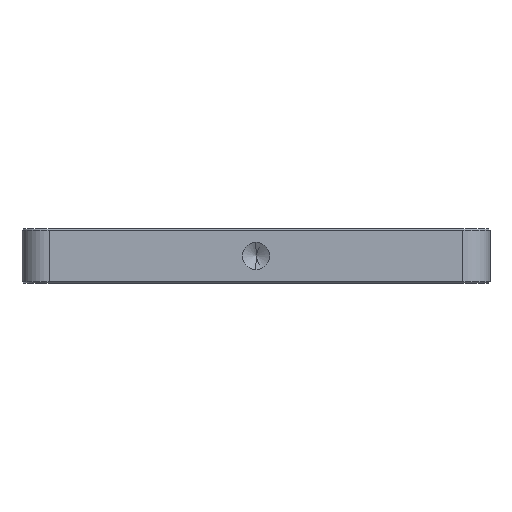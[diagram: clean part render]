
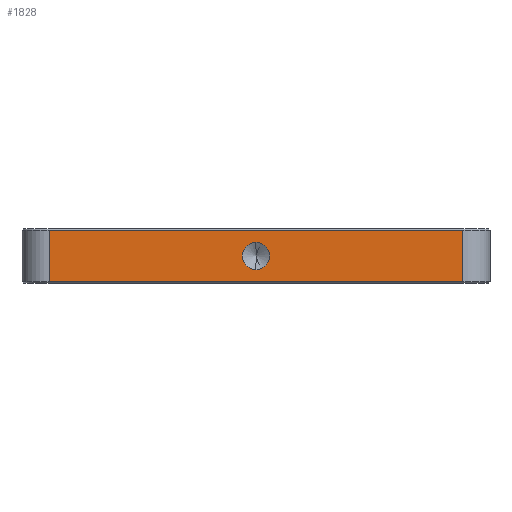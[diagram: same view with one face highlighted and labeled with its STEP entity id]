
A CAD part, left-side view. The second image highlights one B-rep face of the part: STEP entity #1828.
In plain terms, the highlighted planar face has unit normal (-1, 0, 0).
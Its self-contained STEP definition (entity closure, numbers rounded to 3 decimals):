
#3 = EDGE_CURVE ( 'NONE', #1045, #1762, #1506, .T. ) ;
#28 = ORIENTED_EDGE ( 'NONE', *, *, #3, .T. ) ;
#35 = ORIENTED_EDGE ( 'NONE', *, *, #933, .F. ) ;
#49 = AXIS2_PLACEMENT_3D ( 'NONE', #1070, #2497, #1695 ) ;
#227 = FACE_OUTER_BOUND ( 'NONE', #1466, .T. ) ;
#328 = ORIENTED_EDGE ( 'NONE', *, *, #1592, .T. ) ;
#354 = EDGE_LOOP ( 'NONE', ( #35, #1622 ) ) ;
#461 = FACE_BOUND ( 'NONE', #354, .T. ) ;
#506 = CARTESIAN_POINT ( 'NONE',  ( -43., 43., -4.7 ) ) ;
#534 = CARTESIAN_POINT ( 'NONE',  ( -43., 38., 4.7 ) ) ;
#567 = VERTEX_POINT ( 'NONE', #2544 ) ;
#569 = CARTESIAN_POINT ( 'NONE',  ( -43., -38., 5. ) ) ;
#662 = DIRECTION ( 'NONE',  ( 1., 0., 0. ) ) ;
#676 = CARTESIAN_POINT ( 'NONE',  ( -43., 43., 5. ) ) ;
#731 = CARTESIAN_POINT ( 'NONE',  ( -43., 38., 5. ) ) ;
#831 = EDGE_CURVE ( 'NONE', #1119, #567, #2140, .T. ) ;
#865 = VERTEX_POINT ( 'NONE', #1172 ) ;
#890 = DIRECTION ( 'NONE',  ( 0., 1., 0. ) ) ;
#923 = DIRECTION ( 'NONE',  ( -1., 0., 0. ) ) ;
#933 = EDGE_CURVE ( 'NONE', #567, #1119, #1787, .T. ) ;
#936 = CARTESIAN_POINT ( 'NONE',  ( -43., 0., 0. ) ) ;
#981 = DIRECTION ( 'NONE',  ( 0., 0., 1. ) ) ;
#1045 = VERTEX_POINT ( 'NONE', #2020 ) ;
#1049 = CARTESIAN_POINT ( 'NONE',  ( -43., 38., 4.7 ) ) ;
#1070 = CARTESIAN_POINT ( 'NONE',  ( -43., 0., 0. ) ) ;
#1119 = VERTEX_POINT ( 'NONE', #1884 ) ;
#1159 = ORIENTED_EDGE ( 'NONE', *, *, #1311, .T. ) ;
#1172 = CARTESIAN_POINT ( 'NONE',  ( -43., -38., 4.7 ) ) ;
#1200 = AXIS2_PLACEMENT_3D ( 'NONE', #936, #923, #2569 ) ;
#1275 = VECTOR ( 'NONE', #981, 1000. ) ;
#1311 = EDGE_CURVE ( 'NONE', #865, #1896, #1328, .T. ) ;
#1328 = LINE ( 'NONE', #534, #1358 ) ;
#1358 = VECTOR ( 'NONE', #2578, 1000. ) ;
#1466 = EDGE_LOOP ( 'NONE', ( #1614, #1159, #328, #28 ) ) ;
#1506 = LINE ( 'NONE', #506, #2179 ) ;
#1592 = EDGE_CURVE ( 'NONE', #1896, #1045, #2573, .T. ) ;
#1614 = ORIENTED_EDGE ( 'NONE', *, *, #2189, .T. ) ;
#1622 = ORIENTED_EDGE ( 'NONE', *, *, #831, .F. ) ;
#1695 = DIRECTION ( 'NONE',  ( 0., 0., 1. ) ) ;
#1734 = AXIS2_PLACEMENT_3D ( 'NONE', #676, #662, #890 ) ;
#1762 = VERTEX_POINT ( 'NONE', #2619 ) ;
#1787 = CIRCLE ( 'NONE', #1200, 2.5 ) ;
#1828 = ADVANCED_FACE ( 'NONE', ( #461, #227 ), #1892, .F. ) ;
#1884 = CARTESIAN_POINT ( 'NONE',  ( -43., 0., -2.5 ) ) ;
#1892 = PLANE ( 'NONE',  #1734 ) ;
#1896 = VERTEX_POINT ( 'NONE', #1049 ) ;
#2020 = CARTESIAN_POINT ( 'NONE',  ( -43., 38., -4.7 ) ) ;
#2133 = DIRECTION ( 'NONE',  ( 0., 0., -1. ) ) ;
#2140 = CIRCLE ( 'NONE', #49, 2.5 ) ;
#2179 = VECTOR ( 'NONE', #2362, 1000. ) ;
#2189 = EDGE_CURVE ( 'NONE', #1762, #865, #2399, .T. ) ;
#2362 = DIRECTION ( 'NONE',  ( 0., -1., 0. ) ) ;
#2399 = LINE ( 'NONE', #569, #1275 ) ;
#2415 = VECTOR ( 'NONE', #2133, 1000. ) ;
#2497 = DIRECTION ( 'NONE',  ( -1., 0., 0. ) ) ;
#2544 = CARTESIAN_POINT ( 'NONE',  ( -43., 0., 2.5 ) ) ;
#2569 = DIRECTION ( 'NONE',  ( 0., 0., 1. ) ) ;
#2573 = LINE ( 'NONE', #731, #2415 ) ;
#2578 = DIRECTION ( 'NONE',  ( 0., 1., 0. ) ) ;
#2619 = CARTESIAN_POINT ( 'NONE',  ( -43., -38., -4.7 ) ) ;
